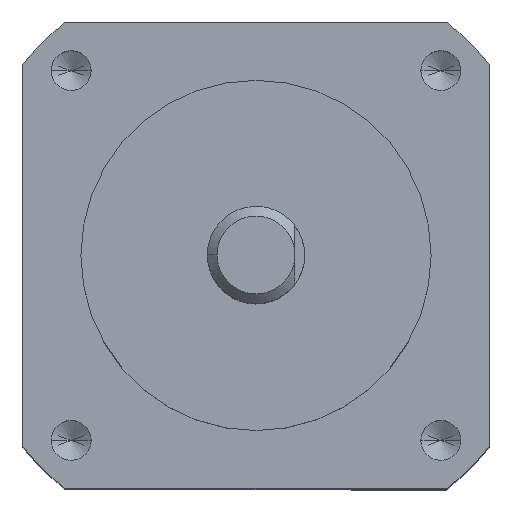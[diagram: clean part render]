
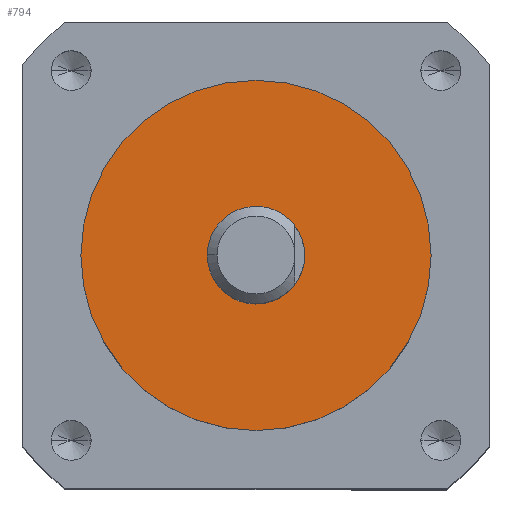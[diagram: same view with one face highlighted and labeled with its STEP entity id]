
A CAD part, top view. The second image highlights one B-rep face of the part: STEP entity #794.
In plain terms, the highlighted planar face has unit normal (0, 0, 1).
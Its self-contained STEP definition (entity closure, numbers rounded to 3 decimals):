
#9 = AXIS2_PLACEMENT_3D ( 'NONE', #1340, #3090, #1590 ) ;
#32 = DIRECTION ( 'NONE',  ( 1., 0., 0. ) ) ;
#255 = FACE_BOUND ( 'NONE', #2951, .T. ) ;
#284 = DIRECTION ( 'NONE',  ( 0., 0., -1. ) ) ;
#287 = VERTEX_POINT ( 'NONE', #2408 ) ;
#297 = DIRECTION ( 'NONE',  ( 1., 0., 0. ) ) ;
#336 = DIRECTION ( 'NONE',  ( 0., 0., -1. ) ) ;
#347 = EDGE_CURVE ( 'NONE', #2829, #287, #2890, .T. ) ;
#370 = ORIENTED_EDGE ( 'NONE', *, *, #1361, .T. ) ;
#418 = CIRCLE ( 'NONE', #3183, 2.5 ) ;
#503 = CARTESIAN_POINT ( 'NONE',  ( 0., 0., 1.5 ) ) ;
#542 = CARTESIAN_POINT ( 'NONE',  ( 0., 0., 1.5 ) ) ;
#551 = EDGE_CURVE ( 'NONE', #2128, #1273, #3168, .T. ) ;
#794 = ADVANCED_FACE ( 'NONE', ( #2833, #255 ), #903, .T. ) ;
#844 = AXIS2_PLACEMENT_3D ( 'NONE', #1179, #1171, #1145 ) ;
#903 = PLANE ( 'NONE',  #3100 ) ;
#911 = DIRECTION ( 'NONE',  ( 1., 0., 0. ) ) ;
#938 = ORIENTED_EDGE ( 'NONE', *, *, #551, .T. ) ;
#968 = CARTESIAN_POINT ( 'NONE',  ( 9., 0., 1.5 ) ) ;
#1103 = CARTESIAN_POINT ( 'NONE',  ( 0., 0., 1.5 ) ) ;
#1145 = DIRECTION ( 'NONE',  ( 1., 0., 0. ) ) ;
#1171 = DIRECTION ( 'NONE',  ( 0., 0., 1. ) ) ;
#1179 = CARTESIAN_POINT ( 'NONE',  ( 0., 0., 1.5 ) ) ;
#1273 = VERTEX_POINT ( 'NONE', #2221 ) ;
#1340 = CARTESIAN_POINT ( 'NONE',  ( 0., 0., 1.5 ) ) ;
#1361 = EDGE_CURVE ( 'NONE', #1273, #2128, #418, .T. ) ;
#1590 = DIRECTION ( 'NONE',  ( 1., 0., 0. ) ) ;
#1923 = ORIENTED_EDGE ( 'NONE', *, *, #2276, .T. ) ;
#2039 = CARTESIAN_POINT ( 'NONE',  ( 2.5, 0., 1.5 ) ) ;
#2128 = VERTEX_POINT ( 'NONE', #2039 ) ;
#2197 = ORIENTED_EDGE ( 'NONE', *, *, #347, .T. ) ;
#2221 = CARTESIAN_POINT ( 'NONE',  ( -2.5, 0., 1.5 ) ) ;
#2276 = EDGE_CURVE ( 'NONE', #287, #2829, #3008, .T. ) ;
#2408 = CARTESIAN_POINT ( 'NONE',  ( -9., 0., 1.5 ) ) ;
#2425 = EDGE_LOOP ( 'NONE', ( #1923, #2197 ) ) ;
#2821 = AXIS2_PLACEMENT_3D ( 'NONE', #542, #336, #297 ) ;
#2829 = VERTEX_POINT ( 'NONE', #968 ) ;
#2833 = FACE_OUTER_BOUND ( 'NONE', #2425, .T. ) ;
#2835 = DIRECTION ( 'NONE',  ( 0., 0., 1. ) ) ;
#2890 = CIRCLE ( 'NONE', #844, 9. ) ;
#2951 = EDGE_LOOP ( 'NONE', ( #370, #938 ) ) ;
#3008 = CIRCLE ( 'NONE', #9, 9. ) ;
#3090 = DIRECTION ( 'NONE',  ( 0., 0., 1. ) ) ;
#3100 = AXIS2_PLACEMENT_3D ( 'NONE', #1103, #2835, #911 ) ;
#3168 = CIRCLE ( 'NONE', #2821, 2.5 ) ;
#3183 = AXIS2_PLACEMENT_3D ( 'NONE', #503, #284, #32 ) ;
